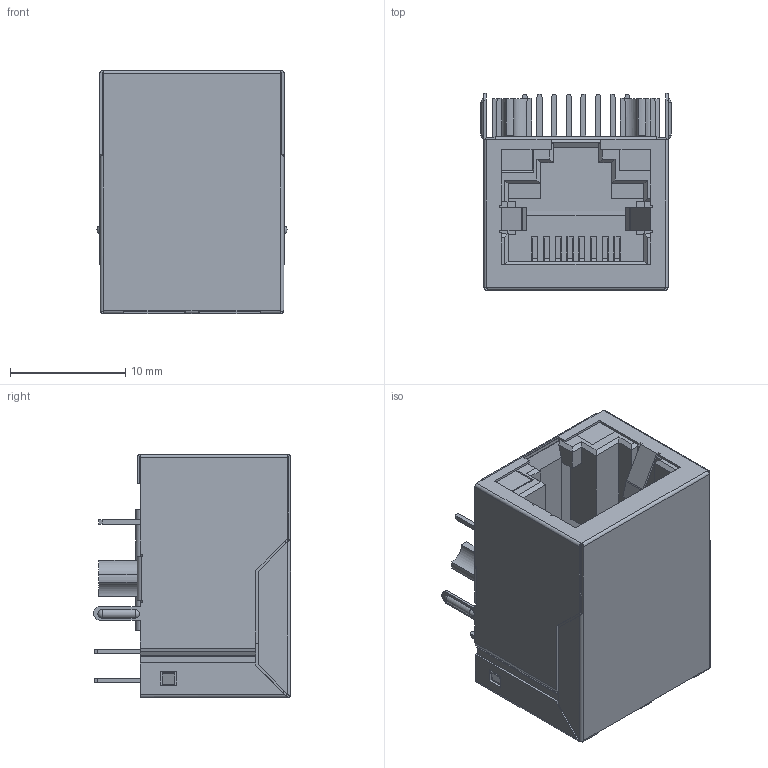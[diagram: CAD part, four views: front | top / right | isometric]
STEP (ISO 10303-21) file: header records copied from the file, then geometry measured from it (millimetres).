
FILE_DESCRIPTION((''),'2;1');
FILE_NAME('ASSEMBLY_04_ASM_1_ASM_1_ASM','2020-07-09T11:13:34',('Administrator'),(''),'CREO PARAMETRIC BY PTC INC, 2018400','CREO PARAMETRIC BY PTC INC, 2018400','');
FILE_SCHEMA(('CONFIG_CONTROL_DESIGN'));
Length unit declared in the file: millimetre
Products named in the file (25): JIAZI_04_1_1_1; JIAZI_04_2_1_1; JIAZI_04_3_1_1; JIAZI_04_5_1_1; JIAZI_04_6_1_1; JIAZI_04_7_1_1; JIAZI_04_8_1_1; JIAZI_04_9_1_1; JIAZI_04_10_1_1; JIAZI_04_11_1_1; JIAZI_04_13_1_1; JIAZI_04_14_1_1; JIAZI_04_15_1_1; JIAZI_04_16_1_1; JIAZI_04_17_1_1; JIAZI_04_18_1_1; JIAZI_04_19_1_1; JIAZI_04_ASM_1_ASM_1_ASM; WAIKE_04_03_1_1; TONGKE_04_BODY_ASM_1_ASM_1_ASM; LED_04_04_1_1; LED_04_PART_ASM_1_ASM_1_ASM; NEIKE_04__07_1_1; SULIAOKE_04_BODY_ASM_1_ASM_1_ASM; ASSEMBLY_04_ASM_1_ASM_1_ASM
Assembly tree (25 placements, depth 3):
  ASSEMBLY_04_ASM_1_ASM_1_ASM
    JIAZI_04_ASM_1_ASM_1_ASM
      JIAZI_04_1_1_1
      JIAZI_04_2_1_1
      JIAZI_04_3_1_1
      JIAZI_04_5_1_1
      JIAZI_04_6_1_1
      JIAZI_04_7_1_1
      JIAZI_04_8_1_1
      JIAZI_04_9_1_1
      JIAZI_04_10_1_1
      JIAZI_04_11_1_1
      JIAZI_04_13_1_1
      JIAZI_04_14_1_1
      JIAZI_04_15_1_1
      JIAZI_04_16_1_1
      JIAZI_04_17_1_1
      JIAZI_04_18_1_1
      JIAZI_04_19_1_1
    TONGKE_04_BODY_ASM_1_ASM_1_ASM
      WAIKE_04_03_1_1
    LED_04_PART_ASM_1_ASM_1_ASM
      LED_04_04_1_1  x2
    SULIAOKE_04_BODY_ASM_1_ASM_1_ASM
      NEIKE_04__07_1_1
Bounding box: 16.5 x 17.1 x 21.1 mm (x, y, z)
Volume: 1997.6 mm3; surface area: 7207.7 mm2
Topology: 21 solids, 21 shells, 1135 faces, 3256 edges, 2146 vertices
Faces by surface type: plane 935, cylinder 148, extrusion 48, sphere 4
Entity records: 39755 total; most frequent: CARTESIAN_POINT 9993, ORIENTED_EDGE 6392, DIRECTION 5677, EDGE_CURVE 3196, VECTOR 2743, LINE 2695, VERTEX_POINT 2106, AXIS2_PLACEMENT_3D 1467
